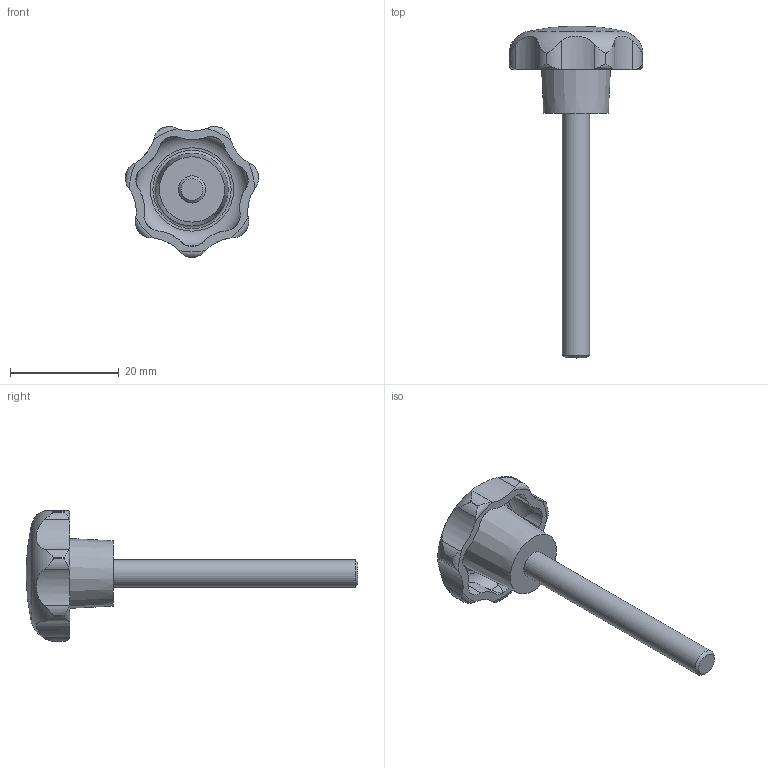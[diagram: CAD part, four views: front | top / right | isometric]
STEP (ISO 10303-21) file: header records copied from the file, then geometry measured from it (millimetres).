
FILE_DESCRIPTION( ( 'STEP AP203' ), '1' );
FILE_NAME( 'C:/Temp/Ganter_Step_05_03_2020/data/2_2/gn_6336_4/gn_6336_4_st/Star knob GN 6336.4-ST-25-M6-45.stp', '2020-03-05T12:07:18', ( 'License CC BY-ND 4.0' ), ( 'CADENAS' ), ' ', 'PARTsolutions', ' ' );
FILE_SCHEMA( ( 'CONFIG_CONTROL_DESIGN' ) );
Length unit declared in the file: millimetre
Products named in the file (1): _Star knob GN 6336.4-ST-25-M6-45
Bounding box: 24.52 x 61 x 24.06 mm (x, y, z)
Volume: 4010.4 mm3; surface area: 2722.1 mm2
Topology: 1 solids, 1 shells, 74 faces, 209 edges, 138 vertices
Faces by surface type: cylinder 50, torus 10, cone 10, plane 3, sphere 1
Full cylindrical faces by diameter (mm): 5 x1
Entity records: 3129 total; most frequent: CARTESIAN_POINT 1317, ORIENTED_EDGE 394, DIRECTION 336, EDGE_CURVE 197, AXIS2_PLACEMENT_3D 147, VERTEX_POINT 135, EDGE_LOOP 83, B_SPLINE_CURVE_WITH_KNOTS 83
